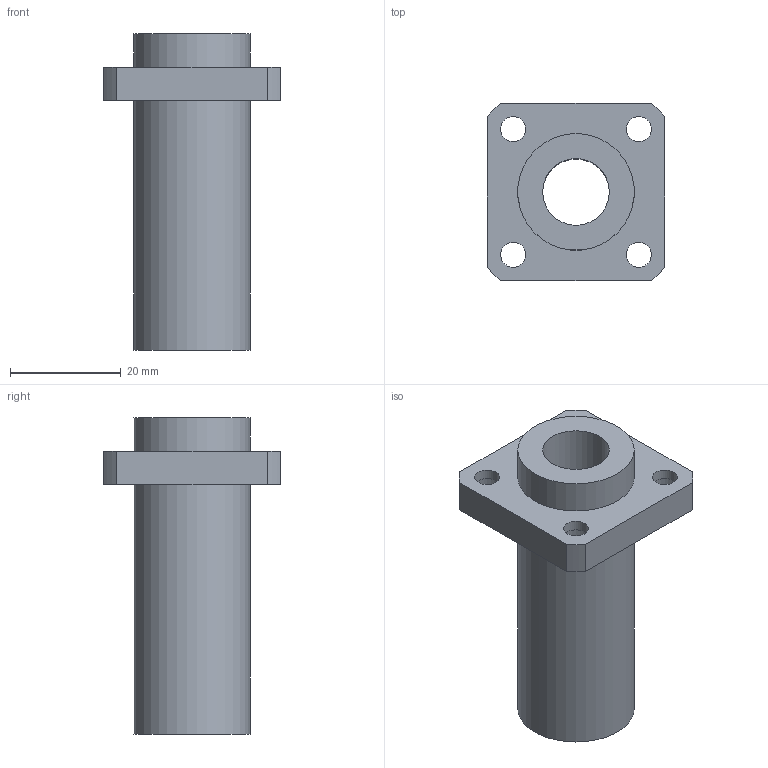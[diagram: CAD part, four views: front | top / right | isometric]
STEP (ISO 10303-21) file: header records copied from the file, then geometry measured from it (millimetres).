
FILE_DESCRIPTION(/* description */ (''),/* implementation_level */ '2;1');
FILE_NAME(/* name */ 'LMKP12LUU',/* time_stamp */ '2019-07-10T14:02:14+02:00',/* author */ ('VĂ©gh MĂˇtĂ©'),/* organization */ ('Bearing Kft'),/* preprocessor_version */ 'ST-DEVELOPER v16.7',/* originating_system */ 'DEX',/* authorisation */ $);
FILE_SCHEMA (('AUTOMOTIVE_DESIGN {1 0 10303 214 3 1 1}'));
Length unit declared in the file: millimetre
Products named in the file (1): LMKP12LUU
Bounding box: 32 x 32 x 57 mm (x, y, z)
Volume: 16450 mm3; surface area: 8428.4 mm2
Topology: 1 solids, 1 shells, 347 faces, 877 edges, 586 vertices
Faces by surface type: plane 267, bspline 62, cylinder 18
Full cylindrical faces by diameter (mm): 4.5 x4, 7.5 x4, 12 x1, 21 x2
Entity records: 12927 total; most frequent: CARTESIAN_POINT 4959, ORIENTED_EDGE 1722, DIRECTION 1345, EDGE_CURVE 861, LINE 701, VECTOR 701, VERTEX_POINT 582, EDGE_LOOP 423
